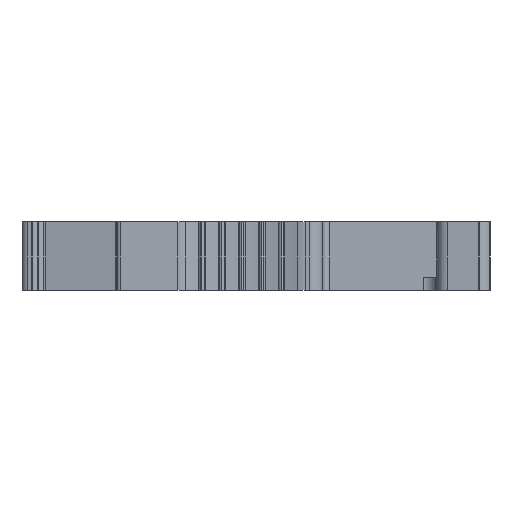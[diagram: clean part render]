
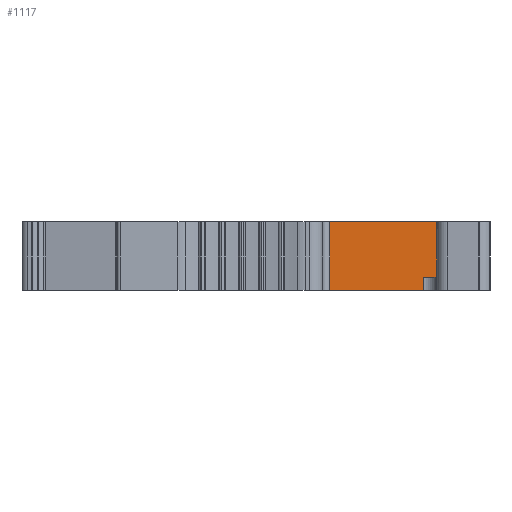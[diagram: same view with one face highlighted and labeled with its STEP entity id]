
A CAD part, left-side view. The second image highlights one B-rep face of the part: STEP entity #1117.
In plain terms, the highlighted planar face has unit normal (-1, 0, 0).
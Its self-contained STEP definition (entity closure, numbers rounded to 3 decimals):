
#1117=ADVANCED_FACE('',(#2203),#1577,.F.);
#1577=PLANE('',#14823);
#2203=FACE_OUTER_BOUND('',#2927,.T.);
#2927=EDGE_LOOP('',(#7156,#7157,#7158,#7159,#7160,#7161));
#7156=ORIENTED_EDGE('',*,*,#10801,.T.);
#7157=ORIENTED_EDGE('',*,*,#9370,.F.);
#7158=ORIENTED_EDGE('',*,*,#10802,.T.);
#7159=ORIENTED_EDGE('',*,*,#10803,.F.);
#7160=ORIENTED_EDGE('',*,*,#10804,.T.);
#7161=ORIENTED_EDGE('',*,*,#9275,.F.);
#7912=VERTEX_POINT('',#19622);
#7913=VERTEX_POINT('',#19624);
#8005=VERTEX_POINT('',#19812);
#8006=VERTEX_POINT('',#19814);
#8881=VERTEX_POINT('',#23078);
#8882=VERTEX_POINT('',#23080);
#9275=EDGE_CURVE('',#7912,#7913,#11152,.T.);
#9370=EDGE_CURVE('',#8005,#8006,#11191,.T.);
#10801=EDGE_CURVE('',#7912,#8006,#12205,.T.);
#10802=EDGE_CURVE('',#8005,#8881,#12206,.T.);
#10803=EDGE_CURVE('',#8882,#8881,#12207,.T.);
#10804=EDGE_CURVE('',#8882,#7913,#12208,.T.);
#11152=LINE('',#19623,#12520);
#11191=LINE('',#19813,#12559);
#12205=LINE('',#23075,#13573);
#12206=LINE('',#23077,#13574);
#12207=LINE('',#23079,#13575);
#12208=LINE('',#23081,#13576);
#12520=VECTOR('',#15517,1.);
#12559=VECTOR('',#15672,1.);
#13573=VECTOR('',#18520,1.);
#13574=VECTOR('',#18523,1.);
#13575=VECTOR('',#18524,1.);
#13576=VECTOR('',#18525,1.);
#14823=AXIS2_PLACEMENT_3D('',#23082,#18526,#18527);
#15517=DIRECTION('',(0.,-1.,0.));
#15672=DIRECTION('',(0.,1.,0.));
#18520=DIRECTION('',(0.,0.,-1.));
#18523=DIRECTION('',(0.,0.,1.));
#18524=DIRECTION('',(0.,1.,0.));
#18525=DIRECTION('',(0.,0.,1.));
#18526=DIRECTION('',(1.,0.,0.));
#18527=DIRECTION('',(0.,-1.,0.));
#19622=CARTESIAN_POINT('',(1807.468,1079.477,2.6));
#19623=CARTESIAN_POINT('',(1807.468,1079.477,2.6));
#19624=CARTESIAN_POINT('',(1807.468,1069.177,2.6));
#19812=CARTESIAN_POINT('',(1807.468,1072.377,-2.6));
#19813=CARTESIAN_POINT('',(1807.468,1072.377,-2.6));
#19814=CARTESIAN_POINT('',(1807.468,1079.477,-2.6));
#23075=CARTESIAN_POINT('',(1807.468,1079.477,2.6));
#23077=CARTESIAN_POINT('',(1807.468,1072.377,-2.6));
#23078=CARTESIAN_POINT('',(1807.468,1072.377,-1.6));
#23079=CARTESIAN_POINT('',(1807.468,1069.177,-1.6));
#23080=CARTESIAN_POINT('',(1807.468,1069.177,-1.6));
#23081=CARTESIAN_POINT('',(1807.468,1069.177,-1.6));
#23082=CARTESIAN_POINT('',(1807.468,1072.377,2.6));
